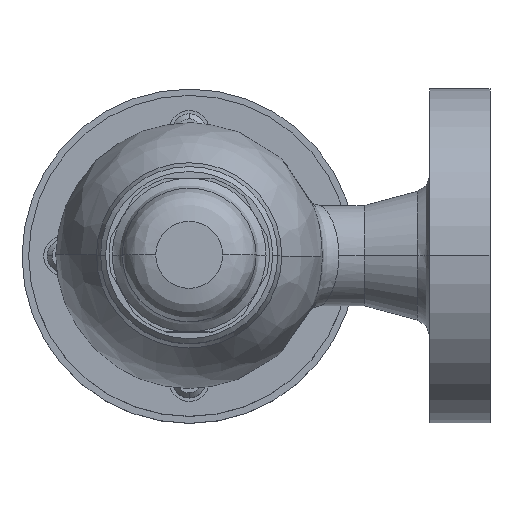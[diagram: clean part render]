
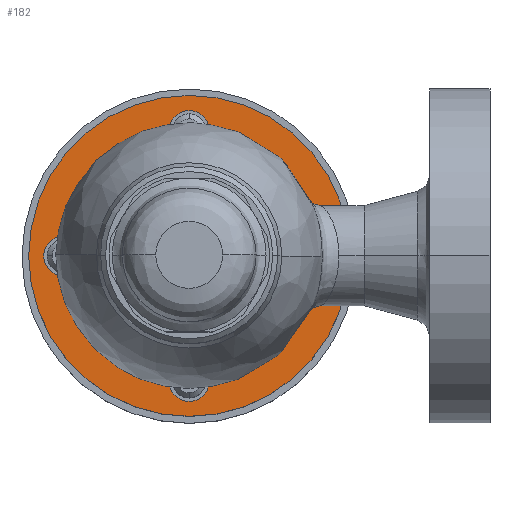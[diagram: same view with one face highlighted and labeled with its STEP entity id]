
A CAD part, top view. The second image highlights one B-rep face of the part: STEP entity #182.
In plain terms, the highlighted planar face has unit normal (0, 0, 1).
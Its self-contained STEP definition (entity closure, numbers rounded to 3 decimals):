
#182=ADVANCED_FACE('',(#387,#388),#386,.T.);
#386=PLANE('',#2076);
#387=FACE_OUTER_BOUND('',#2077,.T.);
#388=FACE_BOUND('',#2078,.T.);
#2073=CARTESIAN_POINT('',(-58.,-93.138,-37.));
#2074=DIRECTION('',(0.,0.,1.));
#2075=DIRECTION('',(1.,0.,0.));
#2076=AXIS2_PLACEMENT_3D('',#2073,#2074,#2075);
#2077=EDGE_LOOP('',(#3312,#3313));
#2078=EDGE_LOOP('',(#3314,#3315,#3316,#3317,#3318,#3319,#3320,#3321,#3322,#3323,#3324,#3325,#3326,#3327));
#3312=ORIENTED_EDGE('',*,*,#4014,.F.);
#3313=ORIENTED_EDGE('',*,*,#4015,.F.);
#3314=ORIENTED_EDGE('',*,*,#4016,.F.);
#3315=ORIENTED_EDGE('',*,*,#4017,.F.);
#3316=ORIENTED_EDGE('',*,*,#4018,.T.);
#3317=ORIENTED_EDGE('',*,*,#4019,.F.);
#3318=ORIENTED_EDGE('',*,*,#4020,.F.);
#3319=ORIENTED_EDGE('',*,*,#4021,.F.);
#3320=ORIENTED_EDGE('',*,*,#4022,.T.);
#3321=ORIENTED_EDGE('',*,*,#4023,.F.);
#3322=ORIENTED_EDGE('',*,*,#4024,.F.);
#3323=ORIENTED_EDGE('',*,*,#4025,.T.);
#3324=ORIENTED_EDGE('',*,*,#4026,.F.);
#3325=ORIENTED_EDGE('',*,*,#4027,.F.);
#3326=ORIENTED_EDGE('',*,*,#4028,.F.);
#3327=ORIENTED_EDGE('',*,*,#4029,.T.);
#4014=EDGE_CURVE('',#4581,#4582,#4583,.T.);
#4015=EDGE_CURVE('',#4582,#4581,#4589,.T.);
#4016=EDGE_CURVE('',#4595,#4596,#4597,.T.);
#4017=EDGE_CURVE('',#4603,#4595,#4604,.T.);
#4018=EDGE_CURVE('',#4603,#4610,#4611,.T.);
#4019=EDGE_CURVE('',#4617,#4610,#4618,.T.);
#4020=EDGE_CURVE('',#4624,#4617,#4625,.T.);
#4021=EDGE_CURVE('',#4631,#4624,#4632,.T.);
#4022=EDGE_CURVE('',#4631,#4638,#4639,.T.);
#4023=EDGE_CURVE('',#4645,#4638,#4646,.T.);
#4024=EDGE_CURVE('',#4652,#4645,#4653,.T.);
#4025=EDGE_CURVE('',#4652,#4659,#4660,.T.);
#4026=EDGE_CURVE('',#4666,#4659,#4667,.T.);
#4027=EDGE_CURVE('',#4673,#4666,#4674,.T.);
#4028=EDGE_CURVE('',#4680,#4673,#4681,.T.);
#4029=EDGE_CURVE('',#4680,#4596,#4687,.T.);
#4581=VERTEX_POINT('',#7009);
#4582=VERTEX_POINT('',#7010);
#4583=CIRCLE('',#7014,48.);
#4589=CIRCLE('',#7018,48.);
#4595=VERTEX_POINT('',#7019);
#4596=VERTEX_POINT('',#7020);
#4597=CIRCLE('',#7024,6.);
#4603=VERTEX_POINT('',#7025);
#4604=CIRCLE('',#7029,6.);
#4610=VERTEX_POINT('',#7030);
#4611=CIRCLE('',#7034,34.5);
#4617=VERTEX_POINT('',#7035);
#4618=CIRCLE('',#7039,6.);
#4624=VERTEX_POINT('',#7040);
#4625=CIRCLE('',#7044,6.);
#4631=VERTEX_POINT('',#7045);
#4632=CIRCLE('',#7049,6.);
#4638=VERTEX_POINT('',#7050);
#4639=CIRCLE('',#7054,34.5);
#4645=VERTEX_POINT('',#7055);
#4646=CIRCLE('',#7059,6.);
#4652=VERTEX_POINT('',#7060);
#4653=CIRCLE('',#7064,6.);
#4659=VERTEX_POINT('',#7065);
#4660=CIRCLE('',#7069,34.5);
#4666=VERTEX_POINT('',#7070);
#4667=CIRCLE('',#7074,6.);
#4673=VERTEX_POINT('',#7075);
#4674=CIRCLE('',#7079,6.);
#4680=VERTEX_POINT('',#7080);
#4681=CIRCLE('',#7084,6.);
#4687=CIRCLE('',#7088,34.5);
#7009=CARTESIAN_POINT('',(48.,0.,-37.));
#7010=CARTESIAN_POINT('',(-48.,0.,-37.));
#7011=CARTESIAN_POINT('',(0.,0.,-37.));
#7012=DIRECTION('',(0.,0.,-1.));
#7013=DIRECTION('',(-1.,0.,0.));
#7014=AXIS2_PLACEMENT_3D('',#7011,#7012,#7013);
#7015=CARTESIAN_POINT('',(0.,0.,-37.));
#7016=DIRECTION('',(0.,0.,-1.));
#7017=DIRECTION('',(-1.,0.,0.));
#7018=AXIS2_PLACEMENT_3D('',#7015,#7016,#7017);
#7019=CARTESIAN_POINT('',(43.5,0.,-37.));
#7020=CARTESIAN_POINT('',(34.14,4.971,-37.));
#7021=CARTESIAN_POINT('',(37.5,0.,-37.));
#7022=DIRECTION('',(0.,0.,1.));
#7023=DIRECTION('',(-1.,0.,0.));
#7024=AXIS2_PLACEMENT_3D('',#7021,#7022,#7023);
#7025=CARTESIAN_POINT('',(34.14,-4.971,-37.));
#7026=CARTESIAN_POINT('',(37.5,0.,-37.));
#7027=DIRECTION('',(0.,0.,1.));
#7028=DIRECTION('',(-1.,0.,0.));
#7029=AXIS2_PLACEMENT_3D('',#7026,#7027,#7028);
#7030=CARTESIAN_POINT('',(4.971,-34.14,-37.));
#7031=CARTESIAN_POINT('',(0.,0.,-37.));
#7032=DIRECTION('',(0.,0.,-1.));
#7033=DIRECTION('',(1.,0.,0.));
#7034=AXIS2_PLACEMENT_3D('',#7031,#7032,#7033);
#7035=CARTESIAN_POINT('',(6.,-37.5,-37.));
#7036=CARTESIAN_POINT('',(0.,-37.5,-37.));
#7037=DIRECTION('',(0.,0.,1.));
#7038=DIRECTION('',(-0.828,0.56,0.));
#7039=AXIS2_PLACEMENT_3D('',#7036,#7037,#7038);
#7040=CARTESIAN_POINT('',(-6.,-37.502,-37.));
#7041=CARTESIAN_POINT('',(0.,-37.5,-37.));
#7042=DIRECTION('',(0.,0.,1.));
#7043=DIRECTION('',(-0.828,0.56,0.));
#7044=AXIS2_PLACEMENT_3D('',#7041,#7042,#7043);
#7045=CARTESIAN_POINT('',(-4.971,-34.14,-37.));
#7046=CARTESIAN_POINT('',(0.,-37.5,-37.));
#7047=DIRECTION('',(0.,0.,1.));
#7048=DIRECTION('',(-0.828,0.56,0.));
#7049=AXIS2_PLACEMENT_3D('',#7046,#7047,#7048);
#7050=CARTESIAN_POINT('',(-34.14,-4.971,-37.));
#7051=CARTESIAN_POINT('',(0.,0.,-37.));
#7052=DIRECTION('',(0.,0.,-1.));
#7053=DIRECTION('',(1.,0.,0.));
#7054=AXIS2_PLACEMENT_3D('',#7051,#7052,#7053);
#7055=CARTESIAN_POINT('',(-43.5,0.,-37.));
#7056=CARTESIAN_POINT('',(-37.5,0.,-37.));
#7057=DIRECTION('',(0.,0.,1.));
#7058=DIRECTION('',(0.56,0.828,0.));
#7059=AXIS2_PLACEMENT_3D('',#7056,#7057,#7058);
#7060=CARTESIAN_POINT('',(-34.14,4.971,-37.));
#7061=CARTESIAN_POINT('',(-37.5,0.,-37.));
#7062=DIRECTION('',(0.,0.,1.));
#7063=DIRECTION('',(0.56,0.828,0.));
#7064=AXIS2_PLACEMENT_3D('',#7061,#7062,#7063);
#7065=CARTESIAN_POINT('',(-4.971,34.14,-37.));
#7066=CARTESIAN_POINT('',(0.,0.,-37.));
#7067=DIRECTION('',(0.,0.,-1.));
#7068=DIRECTION('',(1.,0.,0.));
#7069=AXIS2_PLACEMENT_3D('',#7066,#7067,#7068);
#7070=CARTESIAN_POINT('',(-6.,37.502,-37.));
#7071=CARTESIAN_POINT('',(0.,37.5,-37.));
#7072=DIRECTION('',(0.,0.,1.));
#7073=DIRECTION('',(0.828,-0.56,0.));
#7074=AXIS2_PLACEMENT_3D('',#7071,#7072,#7073);
#7075=CARTESIAN_POINT('',(6.,37.5,-37.));
#7076=CARTESIAN_POINT('',(0.,37.5,-37.));
#7077=DIRECTION('',(0.,0.,1.));
#7078=DIRECTION('',(0.828,-0.56,0.));
#7079=AXIS2_PLACEMENT_3D('',#7076,#7077,#7078);
#7080=CARTESIAN_POINT('',(4.971,34.14,-37.));
#7081=CARTESIAN_POINT('',(0.,37.5,-37.));
#7082=DIRECTION('',(0.,0.,1.));
#7083=DIRECTION('',(0.828,-0.56,0.));
#7084=AXIS2_PLACEMENT_3D('',#7081,#7082,#7083);
#7085=CARTESIAN_POINT('',(0.,0.,-37.));
#7086=DIRECTION('',(0.,0.,-1.));
#7087=DIRECTION('',(1.,0.,0.));
#7088=AXIS2_PLACEMENT_3D('',#7085,#7086,#7087);
